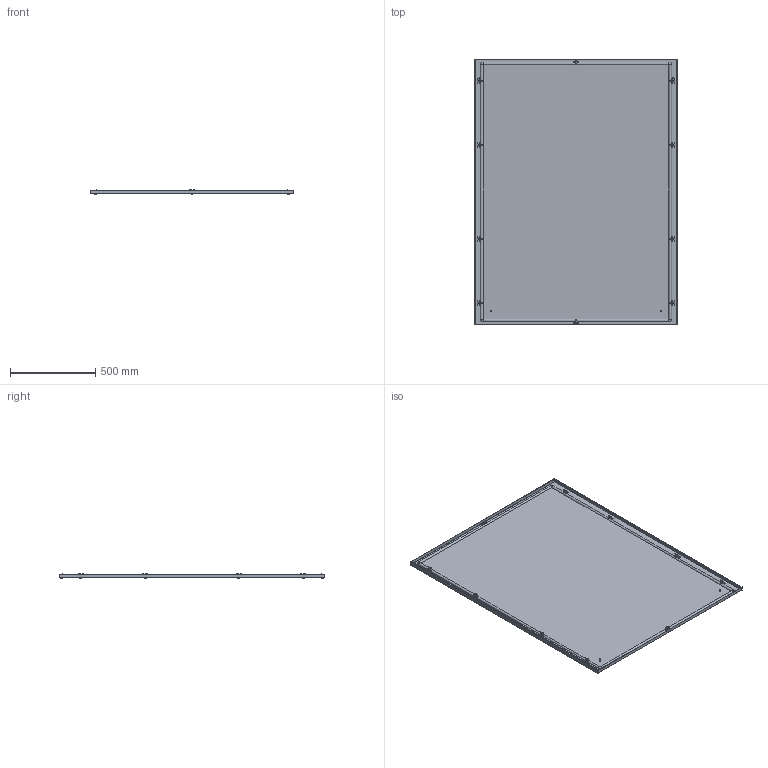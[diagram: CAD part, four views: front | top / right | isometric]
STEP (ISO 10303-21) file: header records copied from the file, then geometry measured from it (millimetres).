
FILE_DESCRIPTION(('Open CASCADE Model'),'2;1');
FILE_NAME('Open CASCADE Shape Model','2025-02-07T16:30:55',('Author'),( 'Open CASCADE'),'Open CASCADE STEP processor 7.8','Open CASCADE 7.8' ,'Unknown');
FILE_SCHEMA(('AUTOMOTIVE_DESIGN { 1 0 10303 214 1 1 1 1 }'));
Length unit declared in the file: millimetre
Products named in the file (10): Compound1; Compound2; Compound3; Solid1; Solid2; Solid3; Solid4; Solid5; Solid6; Solid7
Assembly tree (46 placements, depth 4):
  Compound1
    Compound2
      Compound3
        Solid1
        Solid2  x4
      Solid3
    Solid4  x10
    Solid5  x8
    Solid6  x10
    Solid7  x10
Bounding box: 1194 x 1555 x 23.8 mm (x, y, z)
Volume: 3472047.1 mm3; surface area: 4229012.9 mm2
Topology: 44 solids, 44 shells, 1897 faces, 4610 edges, 2804 vertices
Faces by surface type: plane 1157, cone 384, cylinder 312, torus 34, bspline 10
Full cylindrical faces by diameter (mm): 5 x20, 6 x164, 7.5 x4, 8 x20, 10 x10, 11.57 x10
Entity records: 7881 total; most frequent: CARTESIAN_POINT 1467, DIRECTION 1289, ORIENTED_EDGE 1256, EDGE_CURVE 628, AXIS2_PLACEMENT_3D 440, LINE 409, VECTOR 409, VERTEX_POINT 391
